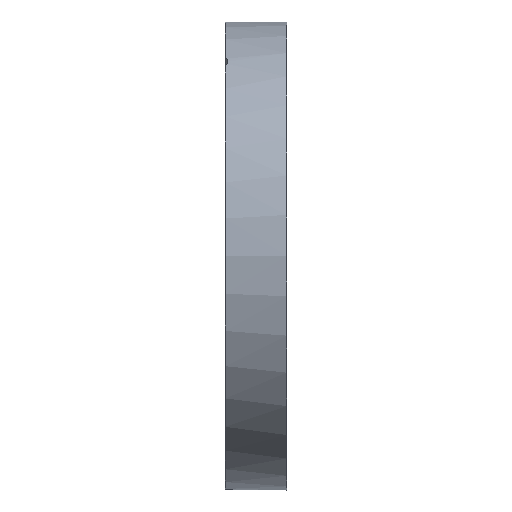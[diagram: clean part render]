
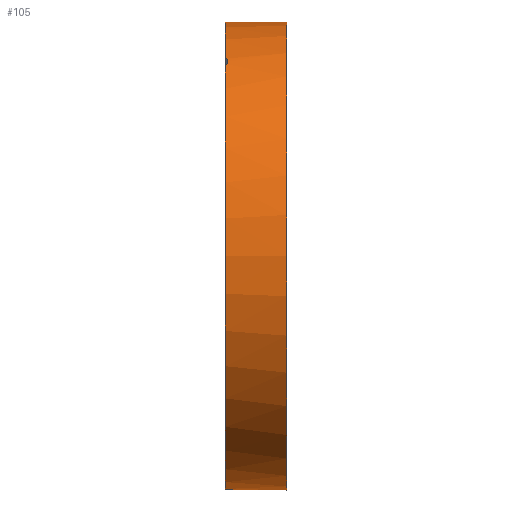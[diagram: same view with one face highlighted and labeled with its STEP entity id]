
A CAD part, top view. The second image highlights one B-rep face of the part: STEP entity #105.
In plain terms, the highlighted cylindrical face has radius 76 mm (diameter 152 mm), a full revolution.
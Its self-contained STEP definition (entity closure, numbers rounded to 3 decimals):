
#105 = ADVANCED_FACE( '', ( #220, #221 ), #222, .T. );
#220 = FACE_OUTER_BOUND( '', #394, .T. );
#221 = FACE_OUTER_BOUND( '', #395, .T. );
#222 = CYLINDRICAL_SURFACE( '', #396, 76. );
#394 = EDGE_LOOP( '', ( #565 ) );
#395 = EDGE_LOOP( '', ( #566, #567, #568, #569 ) );
#396 = AXIS2_PLACEMENT_3D( '', #570, #571, #572 );
#565 = ORIENTED_EDGE( '', *, *, #801, .T. );
#566 = ORIENTED_EDGE( '', *, *, #802, .F. );
#567 = ORIENTED_EDGE( '', *, *, #803, .F. );
#568 = ORIENTED_EDGE( '', *, *, #804, .F. );
#569 = ORIENTED_EDGE( '', *, *, #791, .F. );
#570 = CARTESIAN_POINT( '', ( -60., 0., 0. ) );
#571 = DIRECTION( '', ( 1., 0., 0. ) );
#572 = DIRECTION( '', ( 0., 0., 1. ) );
#791 = EDGE_CURVE( '', #887, #890, #891, .T. );
#801 = EDGE_CURVE( '', #906, #906, #907, .T. );
#802 = EDGE_CURVE( '', #908, #887, #909, .T. );
#803 = EDGE_CURVE( '', #910, #908, #911, .T. );
#804 = EDGE_CURVE( '', #890, #910, #912, .T. );
#887 = VERTEX_POINT( '', #1028 );
#890 = VERTEX_POINT( '', #1032 );
#891 = CIRCLE( '', #1033, 76. );
#906 = VERTEX_POINT( '', #1049 );
#907 = CIRCLE( '', #1050, 76. );
#908 = VERTEX_POINT( '', #1051 );
#909 = B_SPLINE_CURVE_WITH_KNOTS( '', 3, ( #1052, #1053, #1054, #1055, #1056, #1057, #1058, #1059, #1060, #1061, #1062, #1063, #1064, #1065, #1066, #1067, #1068, #1069 ), .UNSPECIFIED., .F., .F., ( 4, 2, 2, 2, 2, 2, 2, 2, 4 ), ( 0., 0.001, 0.001, 0.002, 0.002, 0.003, 0.003, 0.004, 0.004 ), .UNSPECIFIED. );
#910 = VERTEX_POINT( '', #1070 );
#911 = CIRCLE( '', #1071, 76. );
#912 = B_SPLINE_CURVE_WITH_KNOTS( '', 3, ( #1072, #1073, #1074, #1075, #1076, #1077, #1078, #1079, #1080, #1081, #1082, #1083, #1084, #1085, #1086, #1087, #1088, #1089 ), .UNSPECIFIED., .F., .F., ( 4, 2, 2, 2, 2, 2, 2, 2, 4 ), ( 0., 0.001, 0.001, 0.002, 0.002, 0.003, 0.003, 0.004, 0.004 ), .UNSPECIFIED. );
#1028 = CARTESIAN_POINT( '', ( -19.9, -64.302, -40.512 ) );
#1032 = CARTESIAN_POINT( '', ( -19.9, 62.036, 43.904 ) );
#1033 = AXIS2_PLACEMENT_3D( '', #1249, #1250, #1251 );
#1049 = CARTESIAN_POINT( '', ( 0., 0., 76. ) );
#1050 = AXIS2_PLACEMENT_3D( '', #1268, #1269, #1270 );
#1051 = CARTESIAN_POINT( '', ( -19.9, -62.036, -43.904 ) );
#1052 = CARTESIAN_POINT( '', ( -19.9, -62.036, -43.904 ) );
#1053 = CARTESIAN_POINT( '', ( -19.772, -62.116, -43.791 ) );
#1054 = CARTESIAN_POINT( '', ( -19.659, -62.201, -43.67 ) );
#1055 = CARTESIAN_POINT( '', ( -19.461, -62.381, -43.412 ) );
#1056 = CARTESIAN_POINT( '', ( -19.376, -62.477, -43.274 ) );
#1057 = CARTESIAN_POINT( '', ( -19.239, -62.675, -42.986 ) );
#1058 = CARTESIAN_POINT( '', ( -19.187, -62.776, -42.839 ) );
#1059 = CARTESIAN_POINT( '', ( -19.118, -62.982, -42.536 ) );
#1060 = CARTESIAN_POINT( '', ( -19.1, -63.088, -42.379 ) );
#1061 = CARTESIAN_POINT( '', ( -19.1, -63.295, -42.069 ) );
#1062 = CARTESIAN_POINT( '', ( -19.117, -63.397, -41.914 ) );
#1063 = CARTESIAN_POINT( '', ( -19.186, -63.599, -41.608 ) );
#1064 = CARTESIAN_POINT( '', ( -19.239, -63.699, -41.455 ) );
#1065 = CARTESIAN_POINT( '', ( -19.374, -63.887, -41.164 ) );
#1066 = CARTESIAN_POINT( '', ( -19.458, -63.977, -41.024 ) );
#1067 = CARTESIAN_POINT( '', ( -19.657, -64.148, -40.756 ) );
#1068 = CARTESIAN_POINT( '', ( -19.772, -64.228, -40.629 ) );
#1069 = CARTESIAN_POINT( '', ( -19.9, -64.302, -40.512 ) );
#1070 = CARTESIAN_POINT( '', ( -19.9, 64.302, 40.512 ) );
#1071 = AXIS2_PLACEMENT_3D( '', #1271, #1272, #1273 );
#1072 = CARTESIAN_POINT( '', ( -19.9, 62.036, 43.904 ) );
#1073 = CARTESIAN_POINT( '', ( -19.772, 62.116, 43.791 ) );
#1074 = CARTESIAN_POINT( '', ( -19.659, 62.201, 43.67 ) );
#1075 = CARTESIAN_POINT( '', ( -19.461, 62.381, 43.412 ) );
#1076 = CARTESIAN_POINT( '', ( -19.376, 62.477, 43.274 ) );
#1077 = CARTESIAN_POINT( '', ( -19.239, 62.675, 42.986 ) );
#1078 = CARTESIAN_POINT( '', ( -19.187, 62.776, 42.839 ) );
#1079 = CARTESIAN_POINT( '', ( -19.118, 62.982, 42.536 ) );
#1080 = CARTESIAN_POINT( '', ( -19.1, 63.088, 42.379 ) );
#1081 = CARTESIAN_POINT( '', ( -19.1, 63.295, 42.069 ) );
#1082 = CARTESIAN_POINT( '', ( -19.117, 63.397, 41.914 ) );
#1083 = CARTESIAN_POINT( '', ( -19.186, 63.599, 41.608 ) );
#1084 = CARTESIAN_POINT( '', ( -19.239, 63.699, 41.455 ) );
#1085 = CARTESIAN_POINT( '', ( -19.374, 63.887, 41.164 ) );
#1086 = CARTESIAN_POINT( '', ( -19.458, 63.977, 41.024 ) );
#1087 = CARTESIAN_POINT( '', ( -19.657, 64.148, 40.756 ) );
#1088 = CARTESIAN_POINT( '', ( -19.772, 64.228, 40.629 ) );
#1089 = CARTESIAN_POINT( '', ( -19.9, 64.302, 40.512 ) );
#1249 = CARTESIAN_POINT( '', ( -19.9, 0., 0. ) );
#1250 = DIRECTION( '', ( -1., 0., 0. ) );
#1251 = DIRECTION( '', ( 0., 0., 1. ) );
#1268 = CARTESIAN_POINT( '', ( 0., 0., 0. ) );
#1269 = DIRECTION( '', ( -1., 0., 0. ) );
#1270 = DIRECTION( '', ( 0., 0., 1. ) );
#1271 = CARTESIAN_POINT( '', ( -19.9, 0., 0. ) );
#1272 = DIRECTION( '', ( -1., 0., 0. ) );
#1273 = DIRECTION( '', ( 0., 0., 1. ) );
